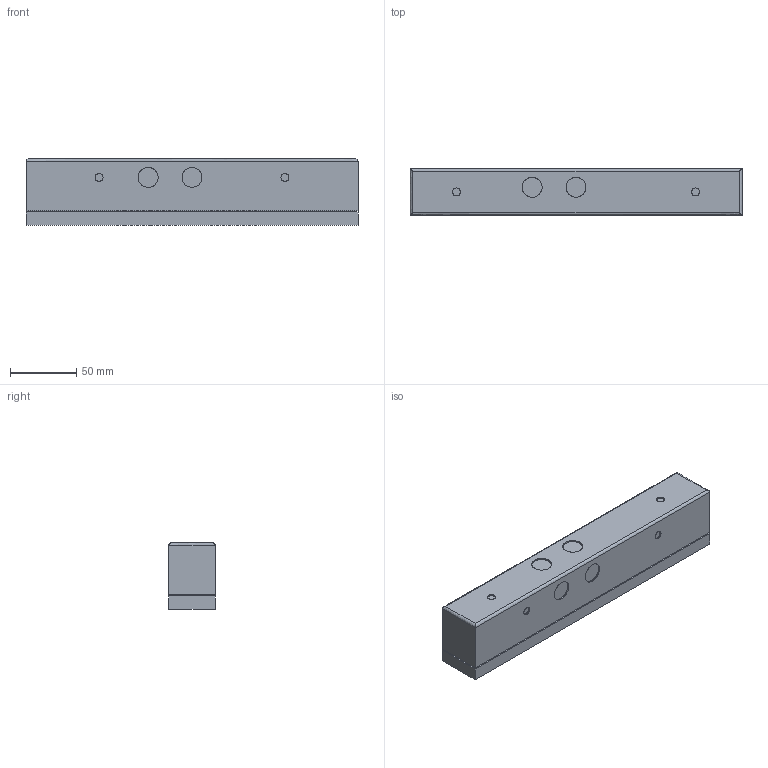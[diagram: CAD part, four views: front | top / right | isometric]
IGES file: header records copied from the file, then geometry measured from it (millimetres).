
Start section: SolidWorks IGES file using analytic representation for surfaces
Global section: file name: S:\KONSTRUKTIONEN\01_NOT-BELEUCHTUNG\KUNSTSTOFFLEUCHTEN\KM 2\10_Entwurf_01\04_Iges\150210\Dummy_KMB.IGS; native system: SolidWorks 2015; preprocessor: SolidWorks 2015; author: markus.weber; date: 150210.105349; units: millimetre
Bounding box: 250 x 35.12 x 49.9 mm (x, y, z)
Surface area: 47981.4 mm2 (no closed solid volume)
Topology: 0 solids, 0 shells, 53 faces, 920 edges, 920 vertices
Faces by surface type: bspline 27, revolution 26
